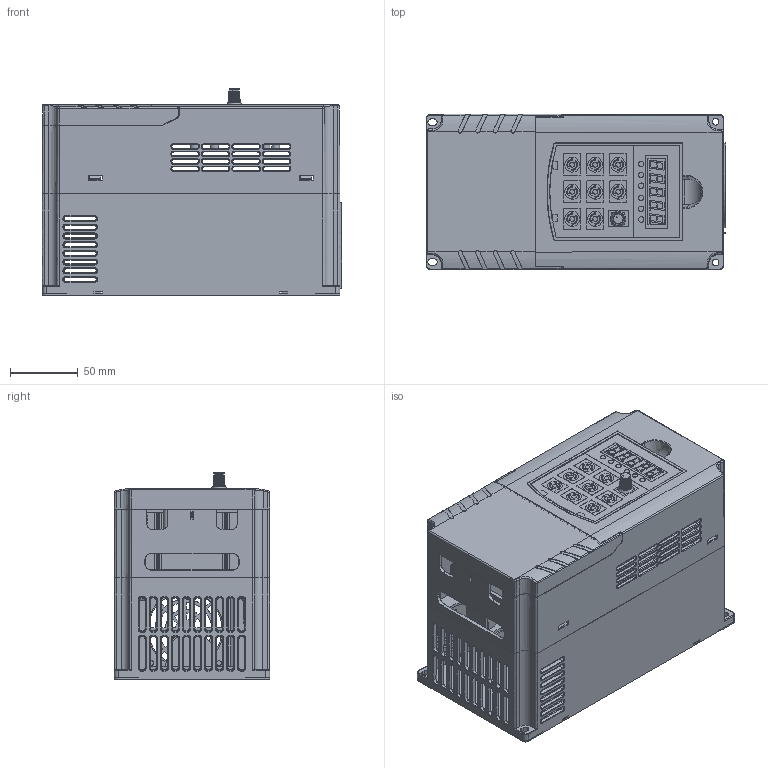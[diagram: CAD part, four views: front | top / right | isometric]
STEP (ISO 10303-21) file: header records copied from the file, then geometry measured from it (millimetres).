
FILE_DESCRIPTION(('STEP AP203'), '1');
FILE_NAME('Ïðåîáðàçîâàòåëü ÷àñòîòû LCI-G2.2-2B (S)', '2024-10-30T12:52:33', ('admin'), (''), 'C3D Converter', 'C3D Toolkit', '');
FILE_SCHEMA(('CONFIG_CONTROL_DESIGN'));
Length unit declared in the file: millimetre
Products named in the file (12):  LCI-G2.2-1; LCI-G2.2; LCI-KP-S; Панель управления
Assembly tree (11 placements, depth 3):
   LCI-G2.2-1
    LCI-G2.2
    LCI-G2.2
    LCI-G2.2
    LCI-G2.2
    LCI-KP-S
      Панель управления
      Панель управления
      Панель управления
      Панель управления
      Панель управления
    LCI-G2.2
Bounding box: 221.5 x 114.92 x 152.34 mm (x, y, z)
Volume: 393250.3 mm3; surface area: 444758.6 mm2
Topology: 26 solids, 28 shells, 3934 faces, 10517 edges, 6787 vertices
Faces by surface type: plane 2252, cylinder 867, bspline 472, cone 229, torus 90, extrusion 24
Full cylindrical faces by diameter (mm): 1.2 x32, 2 x10, 2.197 x1, 2.3 x2, 2.5 x11, 2.8 x2, 3 x4, 3.4 x8, 3.5 x19, 4 x18, 5 x10, 5.5 x1, 6 x18, 7 x5, 8 x1, 8.5 x1, 11 x8, 41 x2, 56.5 x1, 62.5 x1
Entity records: 188091 total; most frequent: CARTESIAN_POINT 88420, ORIENTED_EDGE 20640, DIRECTION 16967, EDGE_CURVE 10334, VECTOR 6795, VERTEX_POINT 6788, LINE 6771, AXIS2_PLACEMENT_3D 5086
